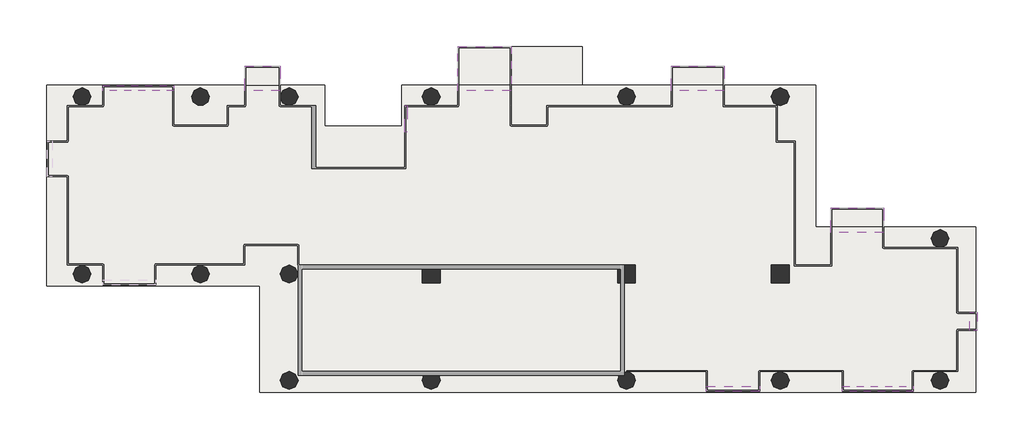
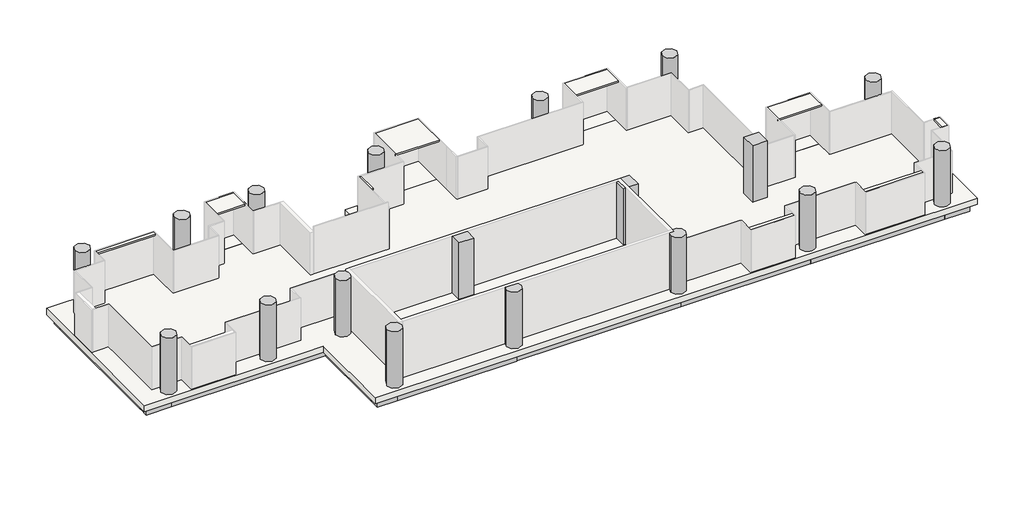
# One storey, part 2 of 2: 38 slabs, 25 beams, 18 columns.
"""IFC4 building model written with IfcOpenShell, lengths in millimetres."""

from ifc_helpers import new_model, si_unit, point, frame, frame_2d, origin, place, context, project, spatial, polyline, circle_curve, trimmed, segment, composite_curve, outline, extrude, transform, mapped, element, save
from ifc_brep_helpers import plane_surface, cylinder_surface, advanced_brep
from components import ajn_arc_ossature_rec_ba_700x600_5242ffbb, ajn_arc_ossature_rec_ba_700x600_213c05e2, ajn_arc_ossature_rec_ba_700x600_4d623bda, ajn_arc_ossature_rec_ba_700x600_c2a8f1af, ajn_arc_ossature_rec_ba_700x600_b2f97811, ajn_arc_ossature_rec_ba_700x600_e688680c, ajn_arc_ossature_rec_ba_700x600_8adee879, ajn_arc_ossature_rec_ba_700x600_6677e51c, ajn_arc_ossature_rec_ba_700x600_60e35d56, ajn_arc_ossature_rec_ba_700x600_9ae0f913, ajn_arc_ossature_rec_ba_700x600_5c14351b, ajn_arc_ossature_rec_ba_700x600_e883967f, ajn_arc_ossature_rec_ba_700x600_0984b03c, ajn_arc_ossature_rec_ba_700x600_78f846f2, ajn_arc_ossature_rec_ba_700x600_e869caa8, ajn_arc_ossature_rec_ba_700x600_0388eb48, ajn_arc_ossature_rec_ba_700x600_e143517c, ajn_arc_ossature_rec_ba_700x600_758f1bfa, ajn_arc_ossature_rec_ba_700x600_64ba80e1, ajn_arc_poteau_circulaire_350e3c68

model = new_model("IFC4")

# Units and contexts
model_context = context("Model", 3, world=origin())
ifc_project = project(units=[si_unit("LENGTHUNIT", "METRE", prefix="MILLI")], contexts=[model_context])

# Site, building, storey
site = spatial("IfcSite", under=ifc_project)
building = spatial("IfcBuilding", under=site)
storey = spatial("IfcBuildingStorey", under=building, Name="TW-L 21", Elevation=74799.9999686)

# Beams
placement = place(None, origin())
ajn_arc_ossature_rec_ba_700x600_shape = ajn_arc_ossature_rec_ba_700x600_5242ffbb(model_context)
element("IfcBeam", 1, ObjectType="AJN-ARC-OSSATURE REC-BA : 700x600", at=placement, inside=storey, context=model_context, shape_type="MappedRepresentation", body=[
    mapped(ajn_arc_ossature_rec_ba_700x600_shape, transform((119350.0, 39300.0, 74249.9999686), x_axis=(-1.0, 0.0, 0.0), y_axis=(0.0, -1.0, 0.0), z_axis=(0.0, 0.0, 1.0))),
])
ajn_arc_ossature_rec_ba_700x600_2_shape = ajn_arc_ossature_rec_ba_700x600_213c05e2(model_context)
element("IfcBeam", 2, ObjectType="AJN-ARC-OSSATURE REC-BA : 700x600", at=placement, inside=storey, context=model_context, shape_type="MappedRepresentation", body=[
    mapped(ajn_arc_ossature_rec_ba_700x600_2_shape, transform((100900.0, 34800.0, 74249.9999686), x_axis=(0.0, -1.0, 0.0), y_axis=(1.0, 0.0, 0.0), z_axis=(0.0, 0.0, 1.0))),
])
ajn_arc_ossature_rec_ba_700x600_3_shape = ajn_arc_ossature_rec_ba_700x600_4d623bda(model_context)
element("IfcBeam", 3, ObjectType="AJN-ARC-OSSATURE REC-BA : 700x600", at=placement, inside=storey, context=model_context, shape_type="MappedRepresentation", body=[
    mapped(ajn_arc_ossature_rec_ba_700x600_3_shape, transform((112150.0, 24900.0, 74249.9999686), x_axis=(1.0, 0.0, 0.0), y_axis=(0.0, 1.0, 0.0), z_axis=(0.0, 0.0, 1.0))),
])
ajn_arc_ossature_rec_ba_700x600_4_shape = ajn_arc_ossature_rec_ba_700x600_c2a8f1af(model_context)
element("IfcBeam", 4, ObjectType="AJN-ARC-OSSATURE REC-BA : 700x600", at=placement, inside=storey, context=model_context, shape_type="MappedRepresentation", body=[
    mapped(ajn_arc_ossature_rec_ba_700x600_4_shape, transform((116200.0, 24900.0, 74249.9999686), x_axis=(1.0, 0.0, 0.0), y_axis=(0.0, 1.0, 0.0), z_axis=(0.0, 0.0, 1.0))),
])
ajn_arc_ossature_rec_ba_700x600_5_shape = ajn_arc_ossature_rec_ba_700x600_b2f97811(model_context)
element("IfcBeam", 5, ObjectType="AJN-ARC-OSSATURE REC-BA : 700x600", at=placement, inside=storey, context=model_context, shape_type="MappedRepresentation", body=[
    mapped(ajn_arc_ossature_rec_ba_700x600_5_shape, transform((106900.0, 30300.0, 74249.9999686), x_axis=(1.0, 0.0, 0.0), y_axis=(0.0, 1.0, 0.0), z_axis=(0.0, 0.0, 1.0))),
])
ajn_arc_ossature_rec_ba_700x600_6_shape = ajn_arc_ossature_rec_ba_700x600_e688680c(model_context)
element("IfcBeam", 6, ObjectType="AJN-ARC-OSSATURE REC-BA : 700x600", at=placement, inside=storey, context=model_context, shape_type="MappedRepresentation", body=[
    mapped(ajn_arc_ossature_rec_ba_700x600_6_shape, transform((111700.0, 27600.0, 74249.9999686), x_axis=(0.0, -1.0, 0.0), y_axis=(1.0, 0.0, 0.0), z_axis=(0.0, 0.0, 1.0))),
])
ajn_arc_ossature_rec_ba_700x600_7_shape = ajn_arc_ossature_rec_ba_700x600_8adee879(model_context)
element("IfcBeam", 7, ObjectType="AJN-ARC-OSSATURE REC-BA : 700x600", at=placement, inside=storey, context=model_context, shape_type="MappedRepresentation", body=[
    mapped(ajn_arc_ossature_rec_ba_700x600_7_shape, transform((124750.0, 24900.0, 74249.9999686), x_axis=(1.0, 0.0, 0.0), y_axis=(0.0, 1.0, 0.0), z_axis=(0.0, 0.0, 1.0))),
])
element("IfcBeam", 8, ObjectType="AJN-ARC-OSSATURE REC-BA : 700x600", at=placement, inside=storey, context=model_context, shape_type="MappedRepresentation", body=[
    mapped(ajn_arc_ossature_rec_ba_700x600_7_shape, transform((124750.0, 39300.0, 74249.9999686), x_axis=(-1.0, 0.0, 0.0), y_axis=(0.0, -1.0, 0.0), z_axis=(0.0, 0.0, 1.0))),
])
ajn_arc_ossature_rec_ba_700x600_8_shape = ajn_arc_ossature_rec_ba_700x600_6677e51c(model_context)
element("IfcBeam", 9, ObjectType="AJN-ARC-OSSATURE REC-BA : 700x600", at=placement, inside=storey, context=model_context, shape_type="MappedRepresentation", body=[
    mapped(ajn_arc_ossature_rec_ba_700x600_8_shape, transform((133600.0, 24900.0, 74249.9999686), x_axis=(1.0, 0.0, 0.0), y_axis=(0.0, 1.0, 0.0), z_axis=(0.0, 0.0, 1.0))),
])
ajn_arc_ossature_rec_ba_700x600_9_shape = ajn_arc_ossature_rec_ba_700x600_60e35d56(model_context)
element("IfcBeam", 10, ObjectType="AJN-ARC-OSSATURE REC-BA : 700x600", at=placement, inside=storey, context=model_context, shape_type="MappedRepresentation", body=[
    mapped(ajn_arc_ossature_rec_ba_700x600_9_shape, transform((141550.0, 24900.0, 74249.9999686), x_axis=(1.0, 0.0, 0.0), y_axis=(0.0, 1.0, 0.0), z_axis=(0.0, 0.0, 1.0))),
])
ajn_arc_ossature_rec_ba_700x600_10_shape = ajn_arc_ossature_rec_ba_700x600_9ae0f913(model_context)
element("IfcBeam", 11, ObjectType="AJN-ARC-OSSATURE REC-BA : 700x600", at=placement, inside=storey, context=model_context, shape_type="MappedRepresentation", body=[
    mapped(ajn_arc_ossature_rec_ba_700x600_10_shape, transform((146200.0, 24900.0, 74249.9999686), x_axis=(1.0, 0.0, 0.0), y_axis=(0.0, 1.0, 0.0), z_axis=(0.0, 0.0, 1.0))),
])
element("IfcBeam", 12, ObjectType="AJN-ARC-OSSATURE REC-BA : 700x600", at=placement, inside=storey, context=model_context, shape_type="MappedRepresentation", body=[
    mapped(ajn_arc_ossature_rec_ba_700x600_10_shape, transform((101500.0, 39300.0, 74249.9999686), x_axis=(-1.0, 0.0, 0.0), y_axis=(0.0, -1.0, 0.0), z_axis=(0.0, 0.0, 1.0))),
])
ajn_arc_ossature_rec_ba_700x600_11_shape = ajn_arc_ossature_rec_ba_700x600_5c14351b(model_context)
element("IfcBeam", 13, ObjectType="AJN-ARC-OSSATURE REC-BA : 700x600", at=placement, inside=storey, context=model_context, shape_type="MappedRepresentation", body=[
    mapped(ajn_arc_ossature_rec_ba_700x600_11_shape, transform((146800.0, 28500.0, 74249.9999686), x_axis=(0.0, 1.0, 0.0), y_axis=(-1.0, 0.0, 0.0), z_axis=(0.0, 0.0, 1.0))),
])
element("IfcBeam", 14, ObjectType="AJN-ARC-OSSATURE REC-BA : 700x600", at=placement, inside=storey, context=model_context, shape_type="MappedRepresentation", body=[
    mapped(ajn_arc_ossature_rec_ba_700x600_11_shape, transform((138700.0, 35700.0, 74249.9999686), x_axis=(0.0, 1.0, 0.0), y_axis=(-1.0, 0.0, 0.0), z_axis=(0.0, 0.0, 1.0))),
])
ajn_arc_ossature_rec_ba_700x600_12_shape = ajn_arc_ossature_rec_ba_700x600_e883967f(model_context)
element("IfcBeam", 15, ObjectType="AJN-ARC-OSSATURE REC-BA : 700x600", at=placement, inside=storey, context=model_context, shape_type="MappedRepresentation", body=[
    mapped(ajn_arc_ossature_rec_ba_700x600_12_shape, transform((146200.0, 32100.0, 74249.9999686), x_axis=(-1.0, 0.0, 0.0), y_axis=(0.0, -1.0, 0.0), z_axis=(0.0, 0.0, 1.0))),
])
element("IfcBeam", 16, ObjectType="AJN-ARC-OSSATURE REC-BA : 700x600", at=placement, inside=storey, context=model_context, shape_type="MappedRepresentation", body=[
    mapped(ajn_arc_ossature_rec_ba_700x600_12_shape, transform((138100.0, 39300.0, 74249.9999686), x_axis=(-1.0, 0.0, 0.0), y_axis=(0.0, -1.0, 0.0), z_axis=(0.0, 0.0, 1.0))),
])
element("IfcBeam", 17, ObjectType="AJN-ARC-OSSATURE REC-BA : 700x600", at=placement, inside=storey, context=model_context, shape_type="MappedRepresentation", body=[
    mapped(ajn_arc_ossature_rec_ba_700x600_12_shape, transform((113200.0, 39300.0, 74249.9999686), x_axis=(-1.0, 0.0, 0.0), y_axis=(0.0, -1.0, 0.0), z_axis=(0.0, 0.0, 1.0))),
])
element("IfcBeam", 18, ObjectType="AJN-ARC-OSSATURE REC-BA : 700x600", at=placement, inside=storey, context=model_context, shape_type="MappedRepresentation", body=[
    mapped(ajn_arc_ossature_rec_ba_700x600_12_shape, transform((101500.0, 30300.0, 74249.9999686), x_axis=(1.0, 0.0, 0.0), y_axis=(0.0, 1.0, 0.0), z_axis=(0.0, 0.0, 1.0))),
])
ajn_arc_ossature_rec_ba_700x600_13_shape = ajn_arc_ossature_rec_ba_700x600_0984b03c(model_context)
element("IfcBeam", 19, ObjectType="AJN-ARC-OSSATURE REC-BA : 700x600", at=placement, inside=storey, context=model_context, shape_type="MappedRepresentation", body=[
    mapped(ajn_arc_ossature_rec_ba_700x600_13_shape, transform((142150.0, 32100.0, 74249.9999686), x_axis=(-1.0, 0.0, 0.0), y_axis=(0.0, -1.0, 0.0), z_axis=(0.0, 0.0, 1.0))),
])
ajn_arc_ossature_rec_ba_700x600_14_shape = ajn_arc_ossature_rec_ba_700x600_78f846f2(model_context)
element("IfcBeam", 20, ObjectType="AJN-ARC-OSSATURE REC-BA : 700x600", at=placement, inside=storey, context=model_context, shape_type="MappedRepresentation", body=[
    mapped(ajn_arc_ossature_rec_ba_700x600_14_shape, transform((133600.0, 39300.0, 74249.9999686), x_axis=(-1.0, 0.0, 0.0), y_axis=(0.0, -1.0, 0.0), z_axis=(0.0, 0.0, 1.0))),
])
ajn_arc_ossature_rec_ba_700x600_15_shape = ajn_arc_ossature_rec_ba_700x600_e869caa8(model_context)
element("IfcBeam", 21, ObjectType="AJN-ARC-OSSATURE REC-BA : 700x600", at=placement, inside=storey, context=model_context, shape_type="MappedRepresentation", body=[
    mapped(ajn_arc_ossature_rec_ba_700x600_15_shape, transform((118900.0, 38250.0, 74249.9999686), x_axis=(0.0, -1.0, 0.0), y_axis=(1.0, 0.0, 0.0), z_axis=(0.0, 0.0, 1.0))),
])
ajn_arc_ossature_rec_ba_700x600_16_shape = ajn_arc_ossature_rec_ba_700x600_0388eb48(model_context)
element("IfcBeam", 22, ObjectType="AJN-ARC-OSSATURE REC-BA : 700x600", at=placement, inside=storey, context=model_context, shape_type="MappedRepresentation", body=[
    mapped(ajn_arc_ossature_rec_ba_700x600_16_shape, transform((110350.0, 39300.0, 74249.9999686), x_axis=(-1.0, 0.0, 0.0), y_axis=(0.0, -1.0, 0.0), z_axis=(0.0, 0.0, 1.0))),
])
ajn_arc_ossature_rec_ba_700x600_17_shape = ajn_arc_ossature_rec_ba_700x600_e143517c(model_context)
element("IfcBeam", 23, ObjectType="AJN-ARC-OSSATURE REC-BA : 700x600", at=placement, inside=storey, context=model_context, shape_type="MappedRepresentation", body=[
    mapped(ajn_arc_ossature_rec_ba_700x600_17_shape, transform((105100.0, 39300.0, 74249.9999686), x_axis=(-1.0, 0.0, 0.0), y_axis=(0.0, -1.0, 0.0), z_axis=(0.0, 0.0, 1.0))),
])
ajn_arc_ossature_rec_ba_700x600_18_shape = ajn_arc_ossature_rec_ba_700x600_758f1bfa(model_context)
element("IfcBeam", 24, ObjectType="AJN-ARC-OSSATURE REC-BA : 700x600", at=placement, inside=storey, context=model_context, shape_type="MappedRepresentation", body=[
    mapped(ajn_arc_ossature_rec_ba_700x600_18_shape, transform((116350.0, 37200.0, 74249.9999686), x_axis=(-1.0, 0.0, 0.0), y_axis=(0.0, -1.0, 0.0), z_axis=(0.0, 0.0, 1.0))),
])
ajn_arc_ossature_rec_ba_700x600_19_shape = ajn_arc_ossature_rec_ba_700x600_64ba80e1(model_context)
element("IfcBeam", 25, ObjectType="AJN-ARC-OSSATURE REC-BA : 700x600", at=placement, inside=storey, context=model_context, shape_type="MappedRepresentation", body=[
    mapped(ajn_arc_ossature_rec_ba_700x600_19_shape, transform((113800.0, 38250.0, 74249.9999686), x_axis=(0.0, 1.0, 0.0), y_axis=(-1.0, 0.0, 0.0), z_axis=(0.0, 0.0, 1.0))),
])

# Columns
element("IfcColumn", 26, ObjectType="AJN-ARC-POTEAU CIRCULAIRE : ø90", at=placement, inside=storey, context=model_context, shape_type="SweptSolid", body=[
    extrude(outline(composite_curve([segment(trimmed(circle_curve(frame_2d((102100.0, 39300.0)), 450.0), [point((101650.0, 39300.0))], [point((102550.0, 39300.0))], False, "CARTESIAN"), True, "CONTINUOUS"), segment(trimmed(circle_curve(frame_2d((102100.0, 39300.0)), 450.0), [point((102550.0, 39300.0))], [point((101650.0, 39300.0))], False, "CARTESIAN"), True, "CONTINUOUS")], self_intersect=False)), frame((0.0, 0.0, 74799.9999686), z_axis=(0.0, 0.0, 1.0), x_axis=(1.0, 0.0, 0.0)), (0.0, 0.0, 1.0), 3600.0),
])
element("IfcColumn", 27, ObjectType="AJN-ARC-POTEAU CIRCULAIRE : ø90", at=placement, inside=storey, context=model_context, shape_type="SweptSolid", body=[
    extrude(outline(composite_curve([segment(trimmed(circle_curve(frame_2d((102100.0, 30300.0)), 450.0), [point((101650.0, 30300.0))], [point((102550.0, 30300.0))], False, "CARTESIAN"), True, "CONTINUOUS"), segment(trimmed(circle_curve(frame_2d((102100.0, 30300.0)), 450.0), [point((102550.0, 30300.0))], [point((101650.0, 30300.0))], False, "CARTESIAN"), True, "CONTINUOUS")], self_intersect=False)), frame((0.0, 0.0, 74799.9999686), z_axis=(0.0, 0.0, 1.0), x_axis=(1.0, 0.0, 0.0)), (0.0, 0.0, 1.0), 3600.0),
])
element("IfcColumn", 28, ObjectType="AJN-ARC-POTEAU CIRCULAIRE : ø90", at=placement, inside=storey, context=model_context, shape_type="SweptSolid", body=[
    extrude(outline(composite_curve([segment(trimmed(circle_curve(frame_2d((108100.0, 30300.0)), 450.0), [point((107650.0, 30300.0))], [point((108550.0, 30300.0))], False, "CARTESIAN"), True, "CONTINUOUS"), segment(trimmed(circle_curve(frame_2d((108100.0, 30300.0)), 450.0), [point((108550.0, 30300.0))], [point((107650.0, 30300.0))], False, "CARTESIAN"), True, "CONTINUOUS")], self_intersect=False)), frame((0.0, 0.0, 74799.9999686), z_axis=(0.0, 0.0, 1.0), x_axis=(1.0, 0.0, 0.0)), (0.0, 0.0, 1.0), 3600.0),
])
element("IfcColumn", 29, ObjectType="AJN-ARC-POTEAU CIRCULAIRE : ø90", at=placement, inside=storey, context=model_context, shape_type="SweptSolid", body=[
    extrude(outline(composite_curve([segment(trimmed(circle_curve(frame_2d((112600.0, 39300.0)), 450.0), [point((112150.0, 39300.0))], [point((113050.0, 39300.0))], False, "CARTESIAN"), True, "CONTINUOUS"), segment(trimmed(circle_curve(frame_2d((112600.0, 39300.0)), 450.0), [point((113050.0, 39300.0))], [point((112150.0, 39300.0))], False, "CARTESIAN"), True, "CONTINUOUS")], self_intersect=False)), frame((0.0, 0.0, 74799.9999686), z_axis=(0.0, 0.0, 1.0), x_axis=(1.0, 0.0, 0.0)), (0.0, 0.0, 1.0), 3600.0),
])
element("IfcColumn", 30, ObjectType="AJN-ARC-POTEAU CIRCULAIRE : ø90", at=placement, inside=storey, context=model_context, shape_type="SweptSolid", body=[
    extrude(outline(composite_curve([segment(trimmed(circle_curve(frame_2d((112600.0, 30300.0)), 450.0), [point((112150.0, 30300.0))], [point((113050.0, 30300.0))], False, "CARTESIAN"), True, "CONTINUOUS"), segment(trimmed(circle_curve(frame_2d((112600.0, 30300.0)), 450.0), [point((113050.0, 30300.0))], [point((112150.0, 30300.0))], False, "CARTESIAN"), True, "CONTINUOUS")], self_intersect=False)), frame((0.0, 0.0, 74799.9999686), z_axis=(0.0, 0.0, 1.0), x_axis=(1.0, 0.0, 0.0)), (0.0, 0.0, 1.0), 3600.0),
])
element("IfcColumn", 31, ObjectType="AJN-ARC-POTEAU CIRCULAIRE : ø90", at=placement, inside=storey, context=model_context, shape_type="SweptSolid", body=[
    extrude(outline(composite_curve([segment(trimmed(circle_curve(frame_2d((112600.0, 24900.0)), 450.0), [point((112150.0, 24900.0))], [point((113050.0, 24900.0))], False, "CARTESIAN"), True, "CONTINUOUS"), segment(trimmed(circle_curve(frame_2d((112600.0, 24900.0)), 450.0), [point((113050.0, 24900.0))], [point((112150.0, 24900.0))], False, "CARTESIAN"), True, "CONTINUOUS")], self_intersect=False)), frame((0.0, 0.0, 74799.9999686), z_axis=(0.0, 0.0, 1.0), x_axis=(1.0, 0.0, 0.0)), (0.0, 0.0, 1.0), 3600.0),
])
element("IfcColumn", 32, ObjectType="AJN-ARC-POTEAU CIRCULAIRE : ø90", at=placement, inside=storey, context=model_context, shape_type="SweptSolid", body=[
    extrude(outline(composite_curve([segment(trimmed(circle_curve(frame_2d((119800.0, 24900.0)), 450.0), [point((120250.0, 24900.0))], [point((119350.0, 24900.0))], False, "CARTESIAN"), True, "CONTINUOUS"), segment(trimmed(circle_curve(frame_2d((119800.0, 24900.0)), 450.0), [point((119350.0, 24900.0))], [point((119425.8342613, 25150.0))], False, "CARTESIAN"), True, "CONTINUOUS"), segment(polyline([(119425.8342613, 25150.0), (120174.1657387, 25150.0)]), True, "CONTINUOUS"), segment(trimmed(circle_curve(frame_2d((119800.0, 24900.0)), 450.0), [point((120174.1657387, 25150.0))], [point((120250.0, 24900.0))], False, "CARTESIAN"), True, "CONTINUOUS")], self_intersect=False)), frame((0.0, 0.0, 74799.9999686), z_axis=(0.0, 0.0, 1.0), x_axis=(1.0, 0.0, 0.0)), (0.0, 0.0, 1.0), 3600.0),
])
element("IfcColumn", 33, ObjectType="AJN-ARC-POTEAU CIRCULAIRE : ø90", at=placement, inside=storey, context=model_context, shape_type="SweptSolid", body=[
    extrude(outline(composite_curve([segment(trimmed(circle_curve(frame_2d((119800.0, 39300.0)), 450.0), [point((119350.0, 39300.0))], [point((120250.0, 39300.0))], False, "CARTESIAN"), True, "CONTINUOUS"), segment(trimmed(circle_curve(frame_2d((119800.0, 39300.0)), 450.0), [point((120250.0, 39300.0))], [point((119350.0, 39300.0))], False, "CARTESIAN"), True, "CONTINUOUS")], self_intersect=False)), frame((0.0, 0.0, 74799.9999686), z_axis=(0.0, 0.0, 1.0), x_axis=(1.0, 0.0, 0.0)), (0.0, 0.0, 1.0), 3600.0),
])
element("IfcColumn", 34, ObjectType="AJN-ARC-POTEAU CIRCULAIRE : ø90", at=placement, inside=storey, context=model_context, shape_type="SweptSolid", body=[
    extrude(outline(composite_curve([segment(trimmed(circle_curve(frame_2d((129700.0, 39300.0)), 450.0), [point((129250.0, 39300.0))], [point((130150.0, 39300.0))], False, "CARTESIAN"), True, "CONTINUOUS"), segment(trimmed(circle_curve(frame_2d((129700.0, 39300.0)), 450.0), [point((130150.0, 39300.0))], [point((129250.0, 39300.0))], False, "CARTESIAN"), True, "CONTINUOUS")], self_intersect=False)), frame((0.0, 0.0, 74799.9999686), z_axis=(0.0, 0.0, 1.0), x_axis=(1.0, 0.0, 0.0)), (0.0, 0.0, 1.0), 3600.0),
])
element("IfcColumn", 35, ObjectType="AJN-ARC-POTEAU CIRCULAIRE : ø90", at=placement, inside=storey, context=model_context, shape_type="SweptSolid", body=[
    extrude(outline(composite_curve([segment(trimmed(circle_curve(frame_2d((129700.0, 24900.0)), 450.0), [point((130150.0, 24900.0))], [point((129250.0, 24900.0))], False, "CARTESIAN"), True, "CONTINUOUS"), segment(trimmed(circle_curve(frame_2d((129700.0, 24900.0)), 450.0), [point((129250.0, 24900.0))], [point((129325.8342613, 25150.0))], False, "CARTESIAN"), True, "CONTINUOUS"), segment(polyline([(129325.8342613, 25150.0), (129600.0, 25150.0), (129600.0, 25338.7482194)]), True, "CONTINUOUS"), segment(trimmed(circle_curve(frame_2d((129700.0, 24900.0)), 450.0), [point((129600.0, 25338.7482194))], [point((130150.0, 24900.0))], False, "CARTESIAN"), True, "CONTINUOUS")], self_intersect=False)), frame((0.0, 0.0, 74799.9999686), z_axis=(0.0, 0.0, 1.0), x_axis=(1.0, 0.0, 0.0)), (0.0, 0.0, 1.0), 3600.0),
])
element("IfcColumn", 36, ObjectType="AJN-ARC-POTEAU CIRCULAIRE : ø90", at=placement, inside=storey, context=model_context, shape_type="SweptSolid", body=[
    extrude(outline(composite_curve([segment(trimmed(circle_curve(frame_2d((137500.0, 39300.0)), 450.0), [point((137050.0, 39300.0))], [point((137950.0, 39300.0))], False, "CARTESIAN"), True, "CONTINUOUS"), segment(trimmed(circle_curve(frame_2d((137500.0, 39300.0)), 450.0), [point((137950.0, 39300.0))], [point((137050.0, 39300.0))], False, "CARTESIAN"), True, "CONTINUOUS")], self_intersect=False)), frame((0.0, 0.0, 74799.9999686), z_axis=(0.0, 0.0, 1.0), x_axis=(1.0, 0.0, 0.0)), (0.0, 0.0, 1.0), 3600.0),
])
element("IfcColumn", 37, ObjectType="AJN-ARC-POTEAU CIRCULAIRE : ø90", at=placement, inside=storey, context=model_context, shape_type="SweptSolid", body=[
    extrude(outline(composite_curve([segment(trimmed(circle_curve(frame_2d((137500.0, 24900.0)), 450.0), [point((137050.0, 24900.0))], [point((137950.0, 24900.0))], False, "CARTESIAN"), True, "CONTINUOUS"), segment(trimmed(circle_curve(frame_2d((137500.0, 24900.0)), 450.0), [point((137950.0, 24900.0))], [point((137050.0, 24900.0))], False, "CARTESIAN"), True, "CONTINUOUS")], self_intersect=False)), frame((0.0, 0.0, 74799.9999686), z_axis=(0.0, 0.0, 1.0), x_axis=(1.0, 0.0, 0.0)), (0.0, 0.0, 1.0), 3600.0),
])
element("IfcColumn", 38, ObjectType="AJN-ARC-POTEAU CIRCULAIRE : ø90", at=placement, inside=storey, context=model_context, shape_type="SweptSolid", body=[
    extrude(outline(composite_curve([segment(trimmed(circle_curve(frame_2d((145600.0, 24900.0)), 450.0), [point((145150.0, 24900.0))], [point((146050.0, 24900.0))], False, "CARTESIAN"), True, "CONTINUOUS"), segment(trimmed(circle_curve(frame_2d((145600.0, 24900.0)), 450.0), [point((146050.0, 24900.0))], [point((145150.0, 24900.0))], False, "CARTESIAN"), True, "CONTINUOUS")], self_intersect=False)), frame((0.0, 0.0, 74799.9999686), z_axis=(0.0, 0.0, 1.0), x_axis=(1.0, 0.0, 0.0)), (0.0, 0.0, 1.0), 3600.0),
])
element("IfcColumn", 39, ObjectType="AJN-ARC-POTEAU CIRCULAIRE : ø90", at=placement, inside=storey, context=model_context, shape_type="AdvancedBrep", body=[
    advanced_brep(
    [(145150.0, 32100.0, 74799.9999686), (146050.0, 32100.0, 74799.9999686), (145638.6089983, 31651.6593424, 74799.9999686), (145561.3910017, 31651.6593424, 74799.9999686), (145150.0, 32100.0, 78399.9999686), (146050.0, 32100.0, 78399.9999686), (145561.3910017, 31651.6593424, 77499.9999686), (145638.6089983, 31651.6593424, 77499.9999686)],
    [
        (0, 1, circle_curve(frame((145600.0, 32100.0, 74799.9999686), z_axis=(0.0, 0.0, -1.0), x_axis=(1.0, 0.0, 0.0)), 450.0)),
        (1, 2, circle_curve(frame((145600.0, 32100.0, 74799.9999686), z_axis=(0.0, 0.0, -1.0), x_axis=(1.0, 0.0, 0.0)), 450.0)),
        (2, 3),
        (3, 0, circle_curve(frame((145600.0, 32100.0, 74799.9999686), z_axis=(0.0, 0.0, -1.0), x_axis=(1.0, 0.0, 0.0)), 450.0)),
        (0, 4),
        (4, 5, circle_curve(frame((145600.0, 32100.0, 78399.9999686), z_axis=(0.0, 0.0, -1.0), x_axis=(1.0, 0.0, 0.0)), 450.0)),
        (5, 1),
        (5, 4, circle_curve(frame((145600.0, 32100.0, 78399.9999686), z_axis=(0.0, 0.0, -1.0), x_axis=(1.0, 0.0, 0.0)), 450.0)),
        (3, 6),
        (6, 7, circle_curve(frame((145600.0, 32100.0, 77499.9999686), z_axis=(0.0, 0.0, 1.0), x_axis=(1.0, 0.0, 0.0)), 450.0)),
        (7, 2),
        (7, 6),
    ],
    [
        plane_surface(frame((146050.0, 32100.0, 74799.9999686), z_axis=(0.0, 0.0, -1.0), x_axis=(0.0, -1.0, 0.0))),
        cylinder_surface(frame((145600.0, 32100.0, 74799.9999686), z_axis=(0.0, 0.0, 1.0), x_axis=(1.0, 0.0, 0.0)), 450.0),
        plane_surface(frame((146050.0, 32100.0, 78399.9999686), z_axis=(0.0, 0.0, 1.0), x_axis=(0.0, 1.0, 0.0))),
        plane_surface(frame((146472.681474, 31651.6593424, 74799.9999686), z_axis=(0.0, -1.0, 0.0), x_axis=(-1.0, 0.0, 0.0))),
        plane_surface(frame((142750.0, 31651.6593424, 77499.9999686), z_axis=(0.0, 0.0, -1.0), x_axis=(0.0, -1.0, 0.0))),
    ],
    [
        (0, [[1, 2, 3, 4]]),
        (1, [[-1, 5, 6, 7]]),
        (1, [[-7, 8, -5, -4, 9, 10, 11, -2]]),
        (2, [[-6, -8]]),
        (3, [[12, -9, -3, -11]]),
        (4, [[-12, -10]]),
    ],
),
])
ajn_arc_poteau_circulaire_shape = ajn_arc_poteau_circulaire_350e3c68(model_context)
element("IfcColumn", 40, ObjectType="AJN-ARC-POTEAU CIRCULAIRE : ø90", at=placement, inside=storey, context=model_context, shape_type="MappedRepresentation", body=[
    mapped(ajn_arc_poteau_circulaire_shape, transform((108100.0, 39300.0, 0.0), x_axis=(1.0, 0.0, 0.0), y_axis=(0.0, 1.0, 0.0), z_axis=(0.0, 0.0, 1.0))),
])
element("IfcColumn", 41, ObjectType="AJN-ARC-POTEAU RECTANGULAIRE : 900 mm x 900 mm", at=placement, inside=storey, context=model_context, shape_type="SweptSolid", body=[
    extrude(outline(polyline([(137950.0, 30750.0), (137950.0, 29850.0), (137050.0, 29850.0), (137050.0, 30750.0), (137950.0, 30750.0)])), frame((0.0, 0.0, 74799.9999686), z_axis=(0.0, 0.0, 1.0), x_axis=(1.0, 0.0, 0.0)), (0.0, 0.0, 1.0), 3600.0),
])
element("IfcColumn", 42, ObjectType="AJN-ARC-POTEAU RECTANGULAIRE : 900 mm x 900 mm", at=placement, inside=storey, context=model_context, shape_type="SweptSolid", body=[
    extrude(outline(polyline([(129400.0, 29850.0), (129250.0, 29850.0), (129250.0, 30550.0), (129400.0, 30550.0), (129400.0, 29850.0)])), frame((0.0, 0.0, 74799.9999686), z_axis=(0.0, 0.0, 1.0), x_axis=(1.0, 0.0, 0.0)), (0.0, 0.0, 1.0), 3600.0),
    extrude(outline(polyline([(130150.0, 30750.0), (130150.0, 29850.0), (129600.0, 29850.0), (129600.0, 30750.0), (130150.0, 30750.0)])), frame((0.0, 0.0, 74799.9999686), z_axis=(0.0, 0.0, 1.0), x_axis=(1.0, 0.0, 0.0)), (0.0, 0.0, 1.0), 3600.0),
])
element("IfcColumn", 43, ObjectType="AJN-ARC-POTEAU RECTANGULAIRE : 900 mm x 900 mm", at=placement, inside=storey, context=model_context, shape_type="SweptSolid", body=[
    extrude(outline(polyline([(120250.0, 29850.0), (119350.0, 29850.0), (119350.0, 30550.0), (120250.0, 30550.0), (120250.0, 29850.0)])), frame((0.0, 0.0, 74799.9999686), z_axis=(0.0, 0.0, 1.0), x_axis=(1.0, 0.0, 0.0)), (0.0, 0.0, 1.0), 3600.0),
])

# Slabs
element("IfcSlab", 44, ObjectType="AJN-ARC-SLAB-10cm", at=placement, inside=storey, context=model_context, shape_type="SweptSolid", body=[
    extrude(outline(polyline([(127463.0639015, 39900.0), (123863.0639015, 39900.0), (123863.0639015, 41850.0), (127463.0639015, 41850.0), (127463.0639015, 39900.0)])), frame((0.0, 0.0, 63900.0), z_axis=(0.0, 0.0, 1.0), x_axis=(1.0, 0.0, 0.0)), (0.0, 0.0, 1.0), 100.0),
])
element("IfcSlab", 45, ObjectType="AJN-ARC-SLAB-10cm", at=placement, inside=storey, context=model_context, shape_type="SweptSolid", body=[
    extrude(outline(polyline([(147497.681474, 27446.1298569), (147400.0, 27446.1298569), (147400.0, 28346.1298569), (147497.681474, 28346.1298569), (147497.681474, 27446.1298569)])), frame((0.0, 0.0, 74699.9999686), z_axis=(0.0, 0.0, 1.0), x_axis=(1.0, 0.0, 0.0)), (0.0, 0.0, 1.0), 100.0),
])
element("IfcSlab", 46, ObjectType="AJN-ARC-SLAB-10cm", at=placement, inside=storey, context=model_context, shape_type="SweptSolid", body=[
    extrude(outline(polyline([(142750.0, 32700.0), (140050.0, 32700.0), (140050.0, 33651.6593424), (142750.0, 33651.6593424), (142750.0, 32700.0)])), frame((0.0, 0.0, 74699.9999686), z_axis=(0.0, 0.0, 1.0), x_axis=(1.0, 0.0, 0.0)), (0.0, 0.0, 1.0), 100.0),
])
element("IfcSlab", 47, ObjectType="AJN-ARC-SLAB-10cm", at=placement, inside=storey, context=model_context, shape_type="SweptSolid", body=[
    extrude(outline(polyline([(123857.0344085, 39900.0), (121157.0344085, 39900.0), (121157.0344085, 41850.0), (123857.0344085, 41850.0), (123857.0344085, 39900.0)])), frame((0.0, 0.0, 74699.9999686), z_axis=(0.0, 0.0, 1.0), x_axis=(1.0, 0.0, 0.0)), (0.0, 0.0, 1.0), 100.0),
])
element("IfcSlab", 48, ObjectType="AJN-ARC-SLAB-10cm", at=placement, inside=storey, context=model_context, shape_type="SweptSolid", body=[
    extrude(outline(polyline([(134661.0540705, 39900.0), (131961.0540705, 39900.0), (131961.0540705, 40850.0), (134661.0540705, 40850.0), (134661.0540705, 39900.0)])), frame((0.0, 0.0, 74699.9999686), z_axis=(0.0, 0.0, 1.0), x_axis=(1.0, 0.0, 0.0)), (0.0, 0.0, 1.0), 100.0),
])
element("IfcSlab", 49, ObjectType="AJN-ARC-SLAB-10cm", at=placement, inside=storey, context=model_context, shape_type="SweptSolid", body=[
    extrude(outline(polyline([(112150.0, 39900.0), (110350.0, 39900.0), (110350.0, 40850.0), (112150.0, 40850.0), (112150.0, 39900.0)])), frame((0.0, 0.0, 74699.9999686), z_axis=(0.0, 0.0, 1.0), x_axis=(1.0, 0.0, 0.0)), (0.0, 0.0, 1.0), 100.0),
])
element("IfcSlab", 50, ObjectType="AJN-ARC-SLAB-10cm", at=placement, inside=storey, context=model_context, shape_type="SweptSolid", body=[
    extrude(outline(polyline([(112150.0, 39900.0), (110350.0, 39900.0), (110350.0, 40850.0), (112150.0, 40850.0), (112150.0, 39900.0)])), frame((0.0, 0.0, 74699.9999686), z_axis=(0.0, 0.0, 1.0), x_axis=(1.0, 0.0, 0.0)), (0.0, 0.0, 1.0), 100.0),
])
element("IfcSlab", 51, ObjectType="AJN-ARC-SLAB-10cm", at=placement, inside=storey, context=model_context, shape_type="SweptSolid", body=[
    extrude(outline(polyline([(112150.0, 39900.0), (110350.0, 39900.0), (110350.0, 40850.0), (112150.0, 40850.0), (112150.0, 39900.0)])), frame((0.0, 0.0, 74699.9999686), z_axis=(0.0, 0.0, 1.0), x_axis=(1.0, 0.0, 0.0)), (0.0, 0.0, 1.0), 100.0),
])
element("IfcSlab", 52, ObjectType="AJN-ARC-SLAB-10cm", at=placement, inside=storey, context=model_context, shape_type="SweptSolid", body=[
    extrude(outline(polyline([(112150.0, 39900.0), (110350.0, 39900.0), (110350.0, 40850.0), (112150.0, 40850.0), (112150.0, 39900.0)])), frame((0.0, 0.0, 74699.9999686), z_axis=(0.0, 0.0, 1.0), x_axis=(1.0, 0.0, 0.0)), (0.0, 0.0, 1.0), 100.0),
])
element("IfcSlab", 53, ObjectType="AJN-ARC-SLAB-10cm", at=placement, inside=storey, context=model_context, shape_type="SweptSolid", body=[
    extrude(outline(polyline([(112150.0, 39900.0), (110350.0, 39900.0), (110350.0, 40850.0), (112150.0, 40850.0), (112150.0, 39900.0)])), frame((0.0, 0.0, 74699.9999686), z_axis=(0.0, 0.0, 1.0), x_axis=(1.0, 0.0, 0.0)), (0.0, 0.0, 1.0), 100.0),
])
element("IfcSlab", 54, ObjectType="AJN-ARC-SLAB-10cm", at=placement, inside=storey, context=model_context, shape_type="SweptSolid", body=[
    extrude(outline(polyline([(112150.0, 39900.0), (110350.0, 39900.0), (110350.0, 40850.0), (112150.0, 40850.0), (112150.0, 39900.0)])), frame((0.0, 0.0, 74699.9999686), z_axis=(0.0, 0.0, 1.0), x_axis=(1.0, 0.0, 0.0)), (0.0, 0.0, 1.0), 100.0),
])
element("IfcSlab", 55, ObjectType="AJN-ARC-SLAB-10cm", at=placement, inside=storey, context=model_context, shape_type="SweptSolid", body=[
    extrude(outline(polyline([(112150.0, 39900.0), (110350.0, 39900.0), (110350.0, 40850.0), (112150.0, 40850.0), (112150.0, 39900.0)])), frame((0.0, 0.0, 74699.9999686), z_axis=(0.0, 0.0, 1.0), x_axis=(1.0, 0.0, 0.0)), (0.0, 0.0, 1.0), 100.0),
])
element("IfcSlab", 56, ObjectType="AJN-ARC-SLAB-10cm", at=placement, inside=storey, context=model_context, shape_type="SweptSolid", body=[
    extrude(outline(polyline([(112150.0, 39900.0), (110350.0, 39900.0), (110350.0, 40850.0), (112150.0, 40850.0), (112150.0, 39900.0)])), frame((0.0, 0.0, 74699.9999686), z_axis=(0.0, 0.0, 1.0), x_axis=(1.0, 0.0, 0.0)), (0.0, 0.0, 1.0), 100.0),
])
element("IfcSlab", 57, ObjectType="AJN-ARC-SLAB-10cm", at=placement, inside=storey, context=model_context, shape_type="SweptSolid", body=[
    extrude(outline(polyline([(112150.0, 39900.0), (110350.0, 39900.0), (110350.0, 40850.0), (112150.0, 40850.0), (112150.0, 39900.0)])), frame((0.0, 0.0, 74699.9999686), z_axis=(0.0, 0.0, 1.0), x_axis=(1.0, 0.0, 0.0)), (0.0, 0.0, 1.0), 100.0),
])
element("IfcSlab", 58, ObjectType="AJN-ARC-SLAB-10cm", at=placement, inside=storey, context=model_context, shape_type="SweptSolid", body=[
    extrude(outline(polyline([(112150.0, 39900.0), (110350.0, 39900.0), (110350.0, 40850.0), (112150.0, 40850.0), (112150.0, 39900.0)])), frame((0.0, 0.0, 74699.9999686), z_axis=(0.0, 0.0, 1.0), x_axis=(1.0, 0.0, 0.0)), (0.0, 0.0, 1.0), 100.0),
])
element("IfcSlab", 59, ObjectType="AJN-ARC-SLAB-10cm", at=placement, inside=storey, context=model_context, shape_type="SweptSolid", body=[
    extrude(outline(polyline([(112150.0, 39900.0), (110350.0, 39900.0), (110350.0, 40850.0), (112150.0, 40850.0), (112150.0, 39900.0)])), frame((0.0, 0.0, 74699.9999686), z_axis=(0.0, 0.0, 1.0), x_axis=(1.0, 0.0, 0.0)), (0.0, 0.0, 1.0), 100.0),
])
element("IfcSlab", 60, ObjectType="AJN-ARC-SLAB-10cm", at=placement, inside=storey, context=model_context, shape_type="SweptSolid", body=[
    extrude(outline(polyline([(112150.0, 39900.0), (110350.0, 39900.0), (110350.0, 40850.0), (112150.0, 40850.0), (112150.0, 39900.0)])), frame((0.0, 0.0, 74699.9999686), z_axis=(0.0, 0.0, 1.0), x_axis=(1.0, 0.0, 0.0)), (0.0, 0.0, 1.0), 100.0),
])
element("IfcSlab", 61, ObjectType="AJN-ARC-SLAB-10cm", at=placement, inside=storey, context=model_context, shape_type="SweptSolid", body=[
    extrude(outline(polyline([(112150.0, 39900.0), (110350.0, 39900.0), (110350.0, 40850.0), (112150.0, 40850.0), (112150.0, 39900.0)])), frame((0.0, 0.0, 74699.9999686), z_axis=(0.0, 0.0, 1.0), x_axis=(1.0, 0.0, 0.0)), (0.0, 0.0, 1.0), 100.0),
])
element("IfcSlab", 62, ObjectType="AJN-ARC-SLAB-10cm", at=placement, inside=storey, context=model_context, shape_type="SweptSolid", body=[
    extrude(outline(polyline([(112150.0, 39900.0), (110350.0, 39900.0), (110350.0, 40850.0), (112150.0, 40850.0), (112150.0, 39900.0)])), frame((0.0, 0.0, 74699.9999686), z_axis=(0.0, 0.0, 1.0), x_axis=(1.0, 0.0, 0.0)), (0.0, 0.0, 1.0), 100.0),
])
element("IfcSlab", 63, ObjectType="AJN-ARC-SLAB-10cm", at=placement, inside=storey, context=model_context, shape_type="SweptSolid", body=[
    extrude(outline(polyline([(112150.0, 39900.0), (110350.0, 39900.0), (110350.0, 40850.0), (112150.0, 40850.0), (112150.0, 39900.0)])), frame((0.0, 0.0, 74699.9999686), z_axis=(0.0, 0.0, 1.0), x_axis=(1.0, 0.0, 0.0)), (0.0, 0.0, 1.0), 100.0),
])
element("IfcSlab", 64, ObjectType="AJN-ARC-SLAB-10cm", at=placement, inside=storey, context=model_context, shape_type="SweptSolid", body=[
    extrude(outline(polyline([(142750.0, 32400.0), (140050.0, 32400.0), (140050.0, 33651.6593424), (142750.0, 33651.6593424), (142750.0, 32400.0)])), frame((0.0, 0.0, 77399.9999686), z_axis=(0.0, 0.0, 1.0), x_axis=(1.0, 0.0, 0.0)), (0.0, 0.0, 1.0), 100.0),
])
element("IfcSlab", 65, ObjectType="AJN-ARC-SLAB-10cm", at=placement, inside=storey, context=model_context, shape_type="SweptSolid", body=[
    extrude(outline(polyline([(118600.0, 37500.0), (118450.0, 37500.0), (118450.0, 38850.0), (118600.0, 38850.0), (118600.0, 37500.0)])), frame((0.0, 0.0, 77399.9999686), z_axis=(0.0, 0.0, 1.0), x_axis=(1.0, 0.0, 0.0)), (0.0, 0.0, 1.0), 100.0),
])
element("IfcSlab", 66, ObjectType="AJN-ARC-SLAB-10cm", at=placement, inside=storey, context=model_context, shape_type="SweptSolid", body=[
    extrude(outline(polyline([(147497.681474, 27446.1298569), (147100.0, 27446.1298569), (147100.0, 28346.1298569), (147497.681474, 28346.1298569), (147497.681474, 27446.1298569)])), frame((0.0, 0.0, 77399.9999686), z_axis=(0.0, 0.0, 1.0), x_axis=(1.0, 0.0, 0.0)), (0.0, 0.0, 1.0), 100.0),
])
element("IfcSlab", 67, ObjectType="AJN-ARC-SLAB-10cm", at=placement, inside=storey, context=model_context, shape_type="SweptSolid", body=[
    extrude(outline(polyline([(106750.0, 39600.0), (103150.0, 39600.0), (103150.0, 39850.0), (106750.0, 39850.0), (106750.0, 39600.0)])), frame((0.0, 0.0, 77399.9999686), z_axis=(0.0, 0.0, 1.0), x_axis=(1.0, 0.0, 0.0)), (0.0, 0.0, 1.0), 100.0),
])
element("IfcSlab", 68, ObjectType="AJN-ARC-SLAB-10cm", at=placement, inside=storey, context=model_context, shape_type="SweptSolid", body=[
    extrude(outline(polyline([(123857.0344085, 39600.0), (121157.0344085, 39600.0), (121157.0344085, 41850.0), (123857.0344085, 41850.0), (123857.0344085, 39600.0)])), frame((0.0, 0.0, 77399.9999686), z_axis=(0.0, 0.0, 1.0), x_axis=(1.0, 0.0, 0.0)), (0.0, 0.0, 1.0), 100.0),
])
element("IfcSlab", 69, ObjectType="AJN-ARC-SLAB-10cm", at=placement, inside=storey, context=model_context, shape_type="SweptSolid", body=[
    extrude(outline(polyline([(112150.0, 39600.0), (110350.0, 39600.0), (110350.0, 40850.0), (112150.0, 40850.0), (112150.0, 39600.0)])), frame((0.0, 0.0, 77399.9999686), z_axis=(0.0, 0.0, 1.0), x_axis=(1.0, 0.0, 0.0)), (0.0, 0.0, 1.0), 100.0),
])
element("IfcSlab", 70, ObjectType="AJN-ARC-SLAB-10cm", at=placement, inside=storey, context=model_context, shape_type="SweptSolid", body=[
    extrude(outline(polyline([(136453.0147465, 24350.0), (133753.0147465, 24350.0), (133753.0147465, 24600.0), (136453.0147465, 24600.0), (136453.0147465, 24350.0)])), frame((0.0, 0.0, 77399.9999686), z_axis=(0.0, 0.0, 1.0), x_axis=(1.0, 0.0, 0.0)), (0.0, 0.0, 1.0), 100.0),
])
element("IfcSlab", 71, ObjectType="AJN-ARC-SLAB-10cm", at=placement, inside=storey, context=model_context, shape_type="SweptSolid", body=[
    extrude(outline(polyline([(134661.0540705, 39600.0), (131961.0540705, 39600.0), (131961.0540705, 40850.0), (134661.0540705, 40850.0), (134661.0540705, 39600.0)])), frame((0.0, 0.0, 77399.9999686), z_axis=(0.0, 0.0, 1.0), x_axis=(1.0, 0.0, 0.0)), (0.0, 0.0, 1.0), 100.0),
])
element("IfcSlab", 72, ObjectType="AJN-ARC-SLAB-10cm", at=placement, inside=storey, context=model_context, shape_type="SweptSolid", body=[
    extrude(outline(polyline([(144253.3466999, 24350.0), (140653.3466999, 24350.0), (140653.3466999, 24600.0), (144253.3466999, 24600.0), (144253.3466999, 24350.0)])), frame((0.0, 0.0, 77399.9999686), z_axis=(0.0, 0.0, 1.0), x_axis=(1.0, 0.0, 0.0)), (0.0, 0.0, 1.0), 100.0),
])
element("IfcSlab", 73, ObjectType="AJN-ARC-SLAB-10cm", at=placement, inside=storey, context=model_context, shape_type="SweptSolid", body=[
    extrude(outline(polyline([(144253.3466999, 24350.0), (140653.3466999, 24350.0), (140653.3466999, 24600.0), (144253.3466999, 24600.0), (144253.3466999, 24350.0)])), frame((0.0, 0.0, 77399.9999686), z_axis=(0.0, 0.0, 1.0), x_axis=(1.0, 0.0, 0.0)), (0.0, 0.0, 1.0), 100.0),
])
element("IfcSlab", 74, ObjectType="AJN-ARC-SLAB-10cm", at=placement, inside=storey, context=model_context, shape_type="SweptSolid", body=[
    extrude(outline(polyline([(144253.3466999, 24350.0), (140653.3466999, 24350.0), (140653.3466999, 24600.0), (144253.3466999, 24600.0), (144253.3466999, 24350.0)])), frame((0.0, 0.0, 77399.9999686), z_axis=(0.0, 0.0, 1.0), x_axis=(1.0, 0.0, 0.0)), (0.0, 0.0, 1.0), 100.0),
])
element("IfcSlab", 75, ObjectType="AJN-ARC-SLAB-10cm", at=placement, inside=storey, context=model_context, shape_type="SweptSolid", body=[
    extrude(outline(polyline([(144253.3466999, 24350.0), (140653.3466999, 24350.0), (140653.3466999, 24600.0), (144253.3466999, 24600.0), (144253.3466999, 24350.0)])), frame((0.0, 0.0, 77399.9999686), z_axis=(0.0, 0.0, 1.0), x_axis=(1.0, 0.0, 0.0)), (0.0, 0.0, 1.0), 100.0),
])
element("IfcSlab", 76, ObjectType="AJN-ARC-SLAB-10cm", at=placement, inside=storey, context=model_context, shape_type="SweptSolid", body=[
    extrude(outline(polyline([(144253.3466999, 24350.0), (140653.3466999, 24350.0), (140653.3466999, 24600.0), (144253.3466999, 24600.0), (144253.3466999, 24350.0)])), frame((0.0, 0.0, 77399.9999686), z_axis=(0.0, 0.0, 1.0), x_axis=(1.0, 0.0, 0.0)), (0.0, 0.0, 1.0), 100.0),
])
element("IfcSlab", 77, ObjectType="AJN-ARC-SLAB-10cm", at=placement, inside=storey, context=model_context, shape_type="SweptSolid", body=[
    extrude(outline(polyline([(144253.3466999, 24350.0), (140653.3466999, 24350.0), (140653.3466999, 24600.0), (144253.3466999, 24600.0), (144253.3466999, 24350.0)])), frame((0.0, 0.0, 77399.9999686), z_axis=(0.0, 0.0, 1.0), x_axis=(1.0, 0.0, 0.0)), (0.0, 0.0, 1.0), 100.0),
])
element("IfcSlab", 78, ObjectType="AJN-ARC-SLAB-10cm", at=placement, inside=storey, context=model_context, shape_type="SweptSolid", body=[
    extrude(outline(polyline([(144253.3466999, 24350.0), (140653.3466999, 24350.0), (140653.3466999, 24600.0), (144253.3466999, 24600.0), (144253.3466999, 24350.0)])), frame((0.0, 0.0, 77399.9999686), z_axis=(0.0, 0.0, 1.0), x_axis=(1.0, 0.0, 0.0)), (0.0, 0.0, 1.0), 100.0),
])
element("IfcSlab", 79, ObjectType="AJN-ARC-SLAB-10cm", at=placement, inside=storey, context=model_context, shape_type="SweptSolid", body=[
    extrude(outline(polyline([(144253.3466999, 24350.0), (140653.3466999, 24350.0), (140653.3466999, 24600.0), (144253.3466999, 24600.0), (144253.3466999, 24350.0)])), frame((0.0, 0.0, 77399.9999686), z_axis=(0.0, 0.0, 1.0), x_axis=(1.0, 0.0, 0.0)), (0.0, 0.0, 1.0), 100.0),
])
element("IfcSlab", 80, ObjectType="AJN-ARC-SLAB-10cm", at=placement, inside=storey, context=model_context, shape_type="SweptSolid", body=[
    extrude(outline(polyline([(144253.3466999, 24350.0), (140653.3466999, 24350.0), (140653.3466999, 24600.0), (144253.3466999, 24600.0), (144253.3466999, 24350.0)])), frame((0.0, 0.0, 77399.9999686), z_axis=(0.0, 0.0, 1.0), x_axis=(1.0, 0.0, 0.0)), (0.0, 0.0, 1.0), 100.0),
])
element("IfcSlab", 81, ObjectType="AJN-ARC-SLAB-40cm", at=placement, inside=storey, context=model_context, shape_type="SweptSolid", body=[
    extrude(outline(polyline([(147400.0, 24300.0), (111100.0, 24300.0), (111100.0, 29700.0), (100300.0, 29700.0), (100300.0, 39900.0), (114400.0, 39900.0), (114400.0, 37800.0), (118300.0, 37800.0), (118300.0, 39900.0), (139300.0, 39900.0), (139300.0, 32700.0), (147400.0, 32700.0), (147400.0, 24300.0)])), frame((0.0, 0.0, 74399.9999686), z_axis=(0.0, 0.0, 1.0), x_axis=(1.0, 0.0, 0.0)), (0.0, 0.0, 1.0), 400.0),
])

save(model, "model.ifc")
